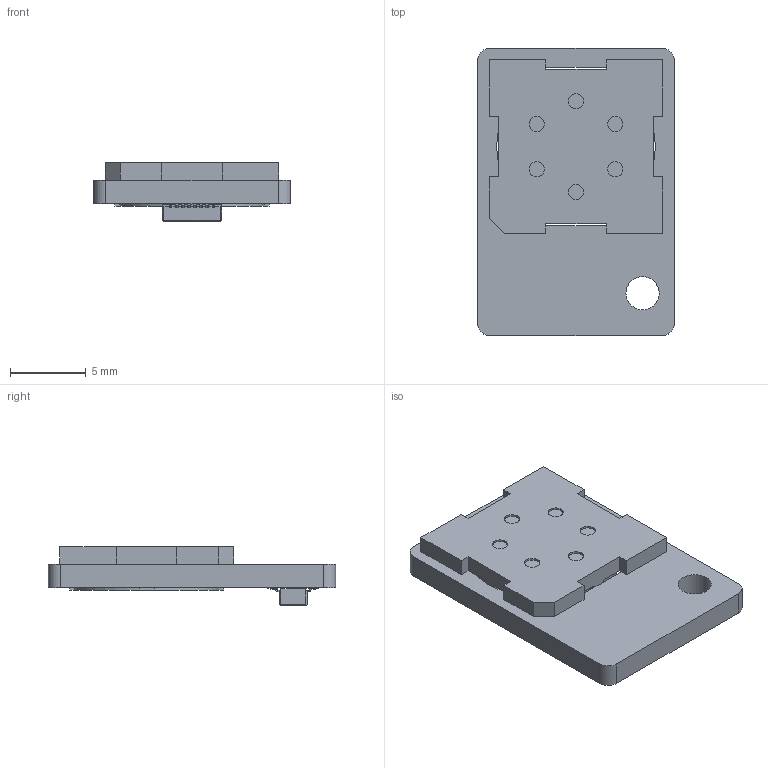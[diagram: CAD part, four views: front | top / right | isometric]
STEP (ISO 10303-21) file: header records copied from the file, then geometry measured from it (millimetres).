
FILE_DESCRIPTION (( 'STEP AP214' ), '1' );
FILE_NAME ('891-110.STEP', '2026-08-14T00:09:56', ( '' ), ( '' ), 'SwSTEP 2.0', 'SolidWorks 2020', '' );
FILE_SCHEMA (( 'AUTOMOTIVE_DESIGN' ));
Length unit declared in the file: millimetre
Products named in the file (5): DGS410 baseboard with connector; 891-110; DF40C-12DP; bare sensor 10x10 CO-HS; DGS410 base board
Assembly tree (4 placements, depth 3):
  891-110
    DGS410 baseboard with connector
      DGS410 base board
      DF40C-12DP
    bare sensor 10x10 CO-HS
Bounding box: 13 x 19 x 3.86 mm (x, y, z)
Volume: 508.2 mm3; surface area: 890.8 mm2
Topology: 3 solids, 3 shells, 360 faces, 1013 edges, 674 vertices
Faces by surface type: plane 257, cylinder 103
Full cylindrical faces by diameter (mm): 0.457 x12, 1 x6, 2.2 x1
Entity records: 12552 total; most frequent: CARTESIAN_POINT 2196, ORIENTED_EDGE 1988, DIRECTION 1920, EDGE_CURVE 994, VECTOR 788, LINE 788, VERTEX_POINT 674, AXIS2_PLACEMENT_3D 566
